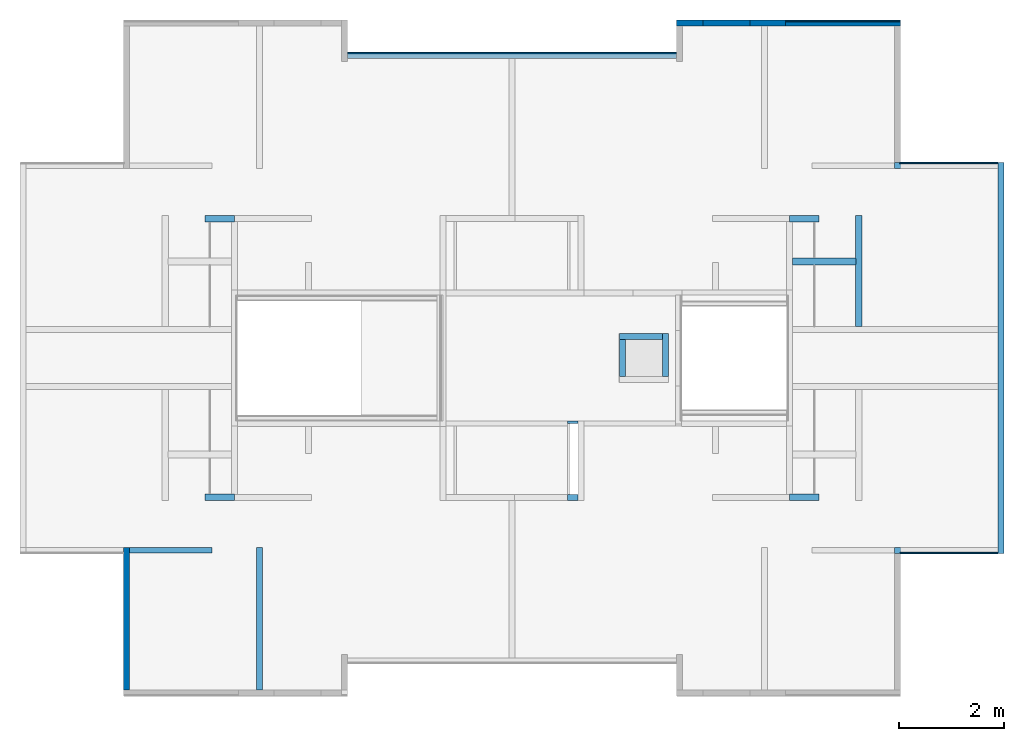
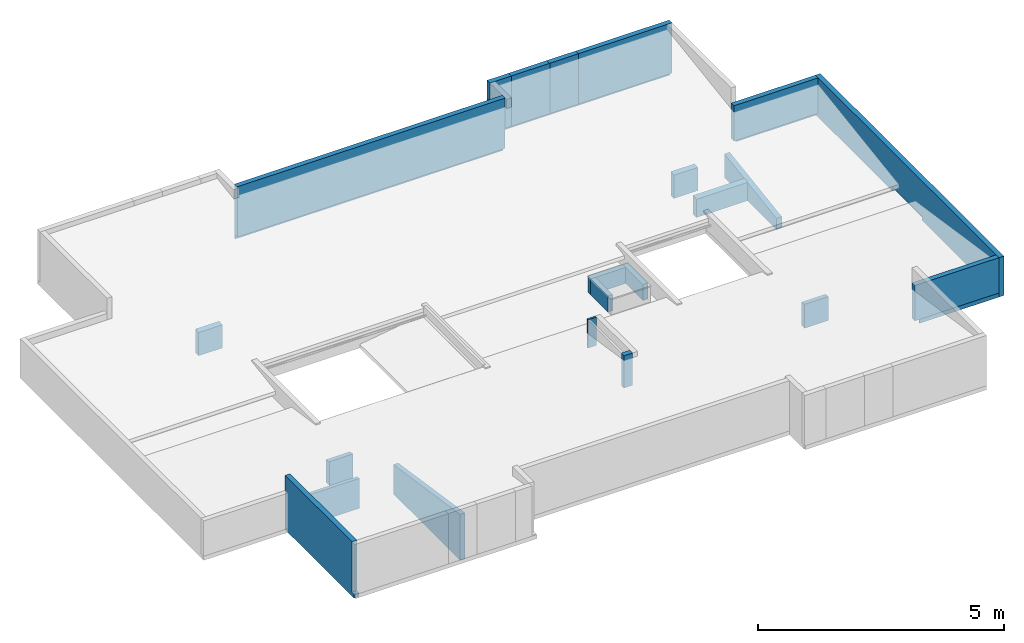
# One storey, part 3 of 9: 26 walls, 2 openings.
"""IFC4 building model written with IfcOpenShell, lengths in metres."""

from ifc_helpers import new_model, entity, si_unit, converted_unit, derived_unit, direction, frame, origin, place, context, subcontext, project, spatial, indexed_curve, outline, extrude, polygons, material, constituent, constituent_set, type_object, element, save


model = new_model("IFC4")

# Units and contexts
model_context = context("Model", 3, precision=1e-05, world=origin(), true_north=direction((6.123031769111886e-17, 1.0)))
body_context = subcontext(model_context, "Body", "Model", "MODEL_VIEW")
ifc_project = project(units=[si_unit("LENGTHUNIT", "METRE"), si_unit("AREAUNIT", "SQUARE_METRE"), si_unit("VOLUMEUNIT", "CUBIC_METRE"), converted_unit("PLANEANGLEUNIT", "DEGREE", entity("IfcRatioMeasure", 0.017453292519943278), si_unit("PLANEANGLEUNIT", "RADIAN"), dimensions=[0, 0, 0, 0, 0, 0, 0]), si_unit("MASSUNIT", "GRAM", prefix="KILO"), derived_unit("MASSDENSITYUNIT", [(si_unit("MASSUNIT", "GRAM", prefix="KILO"), 1), (si_unit("LENGTHUNIT", "METRE"), -3)]), derived_unit("IONCONCENTRATIONUNIT", [(si_unit("MASSUNIT", "GRAM", prefix="KILO"), 1), (si_unit("LENGTHUNIT", "METRE"), -3)]), derived_unit("MOMENTOFINERTIAUNIT", [(si_unit("LENGTHUNIT", "METRE"), 4)]), si_unit("TIMEUNIT", "SECOND"), si_unit("FREQUENCYUNIT", "HERTZ"), si_unit("THERMODYNAMICTEMPERATUREUNIT", "DEGREE_CELSIUS"), derived_unit("THERMALTRANSMITTANCEUNIT", [(si_unit("MASSUNIT", "GRAM", prefix="KILO"), 1), (si_unit("THERMODYNAMICTEMPERATUREUNIT", "KELVIN"), -1), (si_unit("TIMEUNIT", "SECOND"), -3)]), derived_unit("THERMALCONDUCTANCEUNIT", [(si_unit("MASSUNIT", "GRAM", prefix="KILO"), 1), (si_unit("THERMODYNAMICTEMPERATUREUNIT", "KELVIN"), -1), (si_unit("TIMEUNIT", "SECOND"), -3), (si_unit("LENGTHUNIT", "METRE"), 1)]), derived_unit("VOLUMETRICFLOWRATEUNIT", [(si_unit("LENGTHUNIT", "METRE"), 3), (si_unit("TIMEUNIT", "SECOND"), -1)]), derived_unit("MASSFLOWRATEUNIT", [(si_unit("MASSUNIT", "GRAM", prefix="KILO"), 1), (si_unit("TIMEUNIT", "SECOND"), -1)]), derived_unit("ROTATIONALFREQUENCYUNIT", [(si_unit("TIMEUNIT", "SECOND"), -1)]), si_unit("ELECTRICCURRENTUNIT", "AMPERE"), si_unit("ELECTRICVOLTAGEUNIT", "VOLT"), si_unit("POWERUNIT", "WATT"), si_unit("FORCEUNIT", "NEWTON", prefix="KILO"), si_unit("ILLUMINANCEUNIT", "LUX"), si_unit("LUMINOUSFLUXUNIT", "LUMEN"), si_unit("LUMINOUSINTENSITYUNIT", "CANDELA"), derived_unit("USERDEFINED", [(si_unit("MASSUNIT", "GRAM", prefix="KILO"), -1), (si_unit("LENGTHUNIT", "METRE"), -2), (si_unit("TIMEUNIT", "SECOND"), 3), (si_unit("LUMINOUSFLUXUNIT", "LUMEN"), 1)]), derived_unit("USERDEFINED", [(si_unit("MASSUNIT", "GRAM", prefix="KILO"), 1), (si_unit("TIMEUNIT", "SECOND"), -3), (si_unit("LENGTHUNIT", "METRE"), 3), (si_unit("ELECTRICCURRENTUNIT", "AMPERE"), -2)]), derived_unit("SOUNDPOWERUNIT", [(si_unit("MASSUNIT", "GRAM", prefix="KILO"), 1), (si_unit("TIMEUNIT", "SECOND"), -3), (si_unit("LENGTHUNIT", "METRE"), 2)]), derived_unit("SOUNDPRESSUREUNIT", [(si_unit("MASSUNIT", "GRAM", prefix="KILO"), 1), (si_unit("LENGTHUNIT", "METRE"), -1), (si_unit("TIMEUNIT", "SECOND"), -2)]), derived_unit("LINEARVELOCITYUNIT", [(si_unit("LENGTHUNIT", "METRE"), 1), (si_unit("TIMEUNIT", "SECOND"), -1)]), si_unit("PRESSUREUNIT", "PASCAL"), derived_unit("USERDEFINED", [(si_unit("MASSUNIT", "GRAM", prefix="KILO"), 1), (si_unit("LENGTHUNIT", "METRE"), -2), (si_unit("TIMEUNIT", "SECOND"), -2)]), derived_unit("LINEARFORCEUNIT", [(si_unit("MASSUNIT", "GRAM", prefix="KILO"), 1), (si_unit("TIMEUNIT", "SECOND"), -2)]), derived_unit("PLANARFORCEUNIT", [(si_unit("MASSUNIT", "GRAM", prefix="KILO"), 1), (si_unit("LENGTHUNIT", "METRE"), -1), (si_unit("TIMEUNIT", "SECOND"), -2)]), derived_unit("SPECIFICHEATCAPACITYUNIT", [(si_unit("THERMODYNAMICTEMPERATUREUNIT", "KELVIN"), -1), (si_unit("LENGTHUNIT", "METRE"), 2), (si_unit("TIMEUNIT", "SECOND"), -2)]), derived_unit("HEATINGVALUEUNIT", [(si_unit("LENGTHUNIT", "METRE"), 2), (si_unit("TIMEUNIT", "SECOND"), -2)]), derived_unit("VAPORPERMEABILITYUNIT", [(si_unit("LENGTHUNIT", "METRE"), -1), (si_unit("TIMEUNIT", "SECOND"), 1)]), derived_unit("DYNAMICVISCOSITYUNIT", [(si_unit("MASSUNIT", "GRAM", prefix="KILO"), 1), (si_unit("TIMEUNIT", "SECOND"), -1), (si_unit("LENGTHUNIT", "METRE"), -1)]), derived_unit("THERMALEXPANSIONCOEFFICIENTUNIT", [(si_unit("THERMODYNAMICTEMPERATUREUNIT", "KELVIN"), -1)]), derived_unit("MODULUSOFELASTICITYUNIT", [(si_unit("MASSUNIT", "GRAM", prefix="KILO"), 1), (si_unit("LENGTHUNIT", "METRE"), -1), (si_unit("TIMEUNIT", "SECOND"), -2)]), derived_unit("ISOTHERMALMOISTURECAPACITYUNIT", [(si_unit("LENGTHUNIT", "METRE"), 3), (si_unit("MASSUNIT", "GRAM", prefix="KILO"), -1)]), derived_unit("MOISTUREDIFFUSIVITYUNIT", [(si_unit("TIMEUNIT", "SECOND"), -1), (si_unit("LENGTHUNIT", "METRE"), 2)])], contexts=[model_context])

# Site, building, storey
site_placement = place(None, origin())
site = spatial("IfcSite", under=ifc_project, at=site_placement, Name="Default", CompositionType="ELEMENT")
building_placement = place(site_placement, origin())
building = spatial("IfcBuilding", under=site, at=building_placement, CompositionType="ELEMENT")
storey_placement = place(building_placement, frame((0.0, 0.0, 14.10000000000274)))
storey = spatial("IfcBuildingStorey", under=building, at=storey_placement, Name="Nivel 7", CompositionType="ELEMENT", Elevation=14.10000000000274)

# Wall, opening
ifc_material_1 = material(Name="Ladrillo claro (Aire)", Category="Materials")
wall_type_1 = type_object("IfcWallType", Name="Basic Wall:B2010 - 0.115m - Muro exterior en mampostería - Ladrillo", PredefinedType="STANDARD")
wall_1_placement = place(storey_placement, frame((1.9749999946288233, -10.040000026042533, -0.10000000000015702), z_axis=(0.0, 0.0, 1.0), x_axis=(0.0, -1.0, 0.0)))
wall_1 = element("IfcWall", 1, at=wall_1_placement, inside=storey, type_object=wall_type_1, material=ifc_material_1, Name="Basic Wall:B2010 - 0.115m - Muro exterior en mampostería - Ladrillo", ObjectType="Basic Wall:B2010 - 0.115m - Muro exterior en mampostería - Ladrillo", PredefinedType="NOTDEFINED", context=body_context, shape_type="Tessellation", body=[
    polygons([(0.0, -0.05750000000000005, -2.1657342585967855e-15), (0.08500000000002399, -0.057500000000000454, 0.0), (0.11500000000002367, -0.057500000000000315, 0.0), (2.8000000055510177, -0.0575000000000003, -2.1657342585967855e-15), (2.8000000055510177, -0.0575000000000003, 0.0999999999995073), (2.71500000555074, -0.05750000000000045, 0.0999999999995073), (2.71500000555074, -0.05750000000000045, 1.3467999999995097), (0.0, -0.05750000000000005, 1.3467999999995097), (-2.1657342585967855e-15, 0.057499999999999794, -2.1657342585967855e-15), (-2.1657342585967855e-15, 0.057499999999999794, 1.3467999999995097), (2.715000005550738, 0.05749999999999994, 1.3467999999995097), (2.715000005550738, 0.05749999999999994, 0.0999999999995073), (2.8000000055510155, 0.057499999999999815, 0.0999999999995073), (2.8000000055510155, 0.057499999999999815, -2.1657342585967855e-15)], [[[1, 2, 3, 4, 5, 6, 7, 8]], [[9, 10, 11, 12, 13, 14]], [[4, 3, 2, 1, 9, 14]], [[7, 6, 12, 11]], [[8, 7, 11, 10]], [[1, 8, 10, 9]], [[5, 4, 14, 13]], [[6, 5, 13, 12]]], closed=True),
])
opening_1_placement = place(wall_1_placement, origin())
element("IfcOpeningElement", 2, at=opening_1_placement, cuts=wall_1, Name="Basic Wall:B2010 - 0.115m - Muro exterior en mampostería - Ladrillo", PredefinedType="OPENING", context=body_context, shape_type="SweptSolid", body=[
    extrude(outline(indexed_curve([(-0.6234000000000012, -0.04250000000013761), (0.6233999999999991, -0.04250000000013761), (0.6233999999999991, 0.04250000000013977), (-0.6234000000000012, 0.04250000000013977), (-0.6234000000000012, -0.04250000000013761)], self_intersect=False)), frame((2.757500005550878, 0.05749999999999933, 0.7233999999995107), z_axis=(0.0, -1.0, 0.0), x_axis=(0.0, 0.0, 1.0)), (0.0, 0.0, 1.0), 0.115),
])

wall_2_placement = place(storey_placement, frame((18.64500000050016, -10.15500002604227, -0.10000000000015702), z_axis=(0.0, 0.0, 1.0), x_axis=(0.0, 1.0, 0.0)))
wall_2 = element("IfcWall", 3, at=wall_2_placement, inside=storey, type_object=wall_type_1, material=ifc_material_1, Name="Basic Wall:B2010 - 0.115m - Muro exterior en mampostería - Ladrillo", ObjectType="Basic Wall:B2010 - 0.115m - Muro exterior en mampostería - Ladrillo", PredefinedType="NOTDEFINED", context=body_context, shape_type="SweptSolid", body=[
    extrude(outline(indexed_curve([(7.459999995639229, 0.057499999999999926), (8.346495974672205e-17, 0.057499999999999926), (-8.346495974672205e-17, -0.057499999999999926), (7.459999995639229, -0.057499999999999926), (7.459999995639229, 0.057499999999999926)], self_intersect=False)), origin(), (0.0, 0.0, 1.0), 0.9757999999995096),
])
opening_2_placement = place(storey_placement, frame((18.64500000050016, -10.15500002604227, -0.10000000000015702), z_axis=(0.0, 0.0, 1.0), x_axis=(0.0, 1.0, 0.0)))
element("IfcOpeningElement", 4, at=opening_2_placement, cuts=wall_2, Name="Basic Wall:B2010 - 0.115m - Muro exterior en mampostería - Ladrillo:1", PredefinedType="OPENING", context=body_context, shape_type="SweptSolid", body=[
    extrude(outline(indexed_curve([(-0.05000000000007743, -0.02874999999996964), (0.05000000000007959, -0.02874999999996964), (0.05000000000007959, 0.02874999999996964), (-0.05000000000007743, 0.02874999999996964), (-0.05000000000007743, -0.02874999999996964)], self_intersect=False)), frame((3.1299999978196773, 0.02875000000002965, 0.05000000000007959), z_axis=(1.0, 0.0, 0.0), x_axis=(0.0, 0.0, -1.0)), (0.0, 0.0, 1.0), 1.1999999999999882),
])

# Walls
wall_3_placement = place(storey_placement, frame((14.533300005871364, -0.037500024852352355, 0.0), z_axis=(0.0, 0.0, 1.0), x_axis=(-1.0, 0.0, 0.0)))
element("IfcWall", 5, at=wall_3_placement, inside=storey, type_object=wall_type_1, material=ifc_material_1, Name="Basic Wall:B2010 - 0.115m - Muro exterior en mampostería - Ladrillo", ObjectType="Basic Wall:B2010 - 0.115m - Muro exterior en mampostería - Ladrillo", PredefinedType="NOTDEFINED", context=body_context, shape_type="SweptSolid", body=[
    extrude(outline(indexed_curve([(0.670799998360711, 0.05749999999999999), (-5.917886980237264e-16, 0.05749999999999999), (5.917886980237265e-16, -0.0575), (0.670799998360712, -0.0575), (0.670799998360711, 0.05749999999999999)], self_intersect=False)), origin(), (0.0, 0.0, 1.0), 1.2468000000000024),
])
wall_4_placement = place(storey_placement, frame((12.962500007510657, -0.03750002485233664, 0.0), z_axis=(0.0, 0.0, 1.0), x_axis=(-1.0, 0.0, 0.0)))
element("IfcWall", 6, at=wall_4_placement, inside=storey, type_object=wall_type_1, material=ifc_material_1, Name="Basic Wall:B2010 - 0.115m - Muro exterior en mampostería - Ladrillo", ObjectType="Basic Wall:B2010 - 0.115m - Muro exterior en mampostería - Ladrillo", PredefinedType="NOTDEFINED", context=body_context, shape_type="SweptSolid", body=[
    extrude(outline(indexed_curve([(0.5000000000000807, 0.05749999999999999), (-5.563537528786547e-16, 0.05749999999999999), (5.563537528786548e-16, -0.0575), (0.5000000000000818, -0.05749999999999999), (0.5000000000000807, 0.05749999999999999)], self_intersect=False)), origin(), (0.0, 0.0, 1.0), 1.2468000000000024),
])
ifc_material_2 = material(Name="LADRILLO CLARO", Category="Materials")
wall_type_2 = type_object("IfcWallType", Name="Basic Wall:B2010 - 0.115m - ME mampostería no estructural - Ladrillo", PredefinedType="STANDARD")
wall_5_placement = place(storey_placement, frame((18.58750000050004, -2.7525000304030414, 0.0), z_axis=(0.0, 0.0, 1.0), x_axis=(-1.0, 0.0, 0.0)))
element("IfcWall", 7, at=wall_5_placement, inside=storey, type_object=wall_type_2, material=ifc_material_2, Name="Basic Wall:B2010 - 0.115m - ME mampostería no estructural - Ladrillo", ObjectType="Basic Wall:B2010 - 0.115m - ME mampostería no estructural - Ladrillo", PredefinedType="NOTDEFINED", context=body_context, shape_type="SweptSolid", body=[
    extrude(outline(indexed_curve([(1.9749999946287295, 0.05749999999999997), (1.878534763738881e-16, 0.057499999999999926), (-1.878534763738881e-16, -0.057499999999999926), (1.974999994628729, -0.05749999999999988), (1.9749999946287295, 0.05749999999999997)], self_intersect=False)), origin(), (0.0, 0.0, 1.0), 0.8758000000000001),
])
wall_6_placement = place(storey_placement, frame((18.58750000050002, -10.097500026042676, 0.0), z_axis=(0.0, 0.0, 1.0), x_axis=(-1.0, 0.0, 0.0)))
element("IfcWall", 8, at=wall_6_placement, inside=storey, type_object=wall_type_2, material=ifc_material_2, Name="Basic Wall:B2010 - 0.115m - ME mampostería no estructural - Ladrillo", ObjectType="Basic Wall:B2010 - 0.115m - ME mampostería no estructural - Ladrillo", PredefinedType="NOTDEFINED", context=body_context, shape_type="SweptSolid", body=[
    extrude(outline(indexed_curve([(1.974999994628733, 0.05749999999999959), (-5.578745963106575e-16, 0.057499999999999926), (5.578745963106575e-16, -0.057499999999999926), (1.9749999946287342, -0.05750000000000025), (1.974999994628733, 0.05749999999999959)], self_intersect=False)), origin(), (0.0, 0.0, 1.0), 0.8758000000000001),
])
wall_7_placement = place(storey_placement, frame((16.727500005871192, -0.03750002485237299, 0.0), z_axis=(0.0, 0.0, 1.0), x_axis=(-1.0, 0.0, 0.0)))
element("IfcWall", 9, at=wall_7_placement, inside=storey, type_object=wall_type_2, material=ifc_material_2, Name="Basic Wall:B2010 - 0.115m - ME mampostería no estructural - Ladrillo", ObjectType="Basic Wall:B2010 - 0.115m - ME mampostería no estructural - Ladrillo", PredefinedType="NOTDEFINED", context=body_context, shape_type="SweptSolid", body=[
    extrude(outline(indexed_curve([(2.1941999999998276, 0.0575), (-4.823504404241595e-16, 0.0575), (4.823504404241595e-16, -0.0575), (2.194199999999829, -0.05749999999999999), (2.1941999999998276, 0.0575)], self_intersect=False)), origin(), (0.0, 0.0, 1.0), 1.2468000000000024),
])
wall_8_placement = place(storey_placement, frame((13.862500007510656, -0.03750002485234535, 0.0), z_axis=(0.0, 0.0, 1.0), x_axis=(-1.0, 0.0, 0.0)))
element("IfcWall", 10, at=wall_8_placement, inside=storey, type_object=wall_type_2, material=ifc_material_2, Name="Basic Wall:B2010 - 0.115m - ME mampostería no estructural - Ladrillo", ObjectType="Basic Wall:B2010 - 0.115m - ME mampostería no estructural - Ladrillo", PredefinedType="NOTDEFINED", context=body_context, shape_type="SweptSolid", body=[
    extrude(outline(indexed_curve([(0.9000000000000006, 0.05749999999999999), (-5.563537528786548e-16, 0.0575), (5.563537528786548e-16, -0.0575), (0.9000000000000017, -0.0575), (0.9000000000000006, 0.05749999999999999)], self_intersect=False)), origin(), (0.0, 0.0, 1.0), 1.2468000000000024),
])
wall_9_placement = place(storey_placement, frame((6.18249999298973, -0.6525000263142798, 0.0)))
element("IfcWall", 11, at=wall_9_placement, inside=storey, type_object=wall_type_2, material=ifc_material_2, Name="Basic Wall:B2010 - 0.115m - ME mampostería no estructural - Ladrillo", ObjectType="Basic Wall:B2010 - 0.115m - ME mampostería no estructural - Ladrillo", PredefinedType="NOTDEFINED", context=body_context, shape_type="SweptSolid", body=[
    extrude(outline(indexed_curve([(6.280000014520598, 0.05750000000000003), (-1.8502905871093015e-16, 0.05749999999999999), (1.8502905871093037e-16, -0.05750000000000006), (6.280000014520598, -0.057500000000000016), (6.280000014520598, 0.05750000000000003)], self_intersect=False)), origin(), (0.0, 0.0, 1.0), 1.2468000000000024),
])
wall_10_placement = place(storey_placement, frame((12.247500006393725, -6.775000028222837, 0.0), z_axis=(0.0, 0.0, 1.0), x_axis=(0.0, 1.0, 0.0)))
element("IfcWall", 12, at=wall_10_placement, inside=storey, type_object=wall_type_2, material=ifc_material_2, Name="Basic Wall:B2010 - 0.115m - ME mampostería no estructural - Ladrillo", ObjectType="Basic Wall:B2010 - 0.115m - ME mampostería no estructural - Ladrillo", PredefinedType="NOTDEFINED", context=body_context, shape_type="SweptSolid", body=[
    extrude(outline(indexed_curve([(0.8150000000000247, 0.057500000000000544), (-1.9645190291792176e-16, 0.057499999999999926), (1.9645190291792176e-16, -0.057499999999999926), (0.8150000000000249, -0.05749999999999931), (0.8150000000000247, 0.057500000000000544)], self_intersect=False)), origin(), (0.0, 0.0, 1.0), 0.3999999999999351),
])
wall_11_placement = place(storey_placement, frame((11.370000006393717, -6.017500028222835, 0.0)))
element("IfcWall", 13, at=wall_11_placement, inside=storey, type_object=wall_type_2, material=ifc_material_2, Name="Basic Wall:B2010 - 0.115m - ME mampostería no estructural - Ladrillo", ObjectType="Basic Wall:B2010 - 0.115m - ME mampostería no estructural - Ladrillo", PredefinedType="NOTDEFINED", context=body_context, shape_type="SweptSolid", body=[
    extrude(outline(indexed_curve([(0.820000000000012, 0.05750000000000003), (-8.067502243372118e-16, 0.057499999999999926), (8.067502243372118e-16, -0.057499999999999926), (0.8200000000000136, -0.057499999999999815), (0.820000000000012, 0.05750000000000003)], self_intersect=False)), origin(), (0.0, 0.0, 1.0), 0.3999999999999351),
])
wall_12_placement = place(storey_placement, frame((11.427500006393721, -6.775000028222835, 0.0), z_axis=(0.0, 0.0, 1.0), x_axis=(0.0, 1.0, 0.0)))
element("IfcWall", 14, at=wall_12_placement, inside=storey, type_object=wall_type_2, material=ifc_material_2, Name="Basic Wall:B2010 - 0.115m - ME mampostería no estructural - Ladrillo", ObjectType="Basic Wall:B2010 - 0.115m - ME mampostería no estructural - Ladrillo", PredefinedType="NOTDEFINED", context=body_context, shape_type="SweptSolid", body=[
    extrude(outline(indexed_curve([(0.7000000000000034, 0.0574999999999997), (1.9645190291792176e-16, 0.057499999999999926), (-1.9645190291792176e-16, -0.057499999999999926), (0.7000000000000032, -0.057500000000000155), (0.7000000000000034, 0.0574999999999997)], self_intersect=False)), origin(), (0.0, 0.0, 1.0), 0.3999999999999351),
])
wall_type_3 = type_object("IfcWallType", Name="Basic Wall:B2010 - 0.115m - Muro interior en mampostería - Ladrillo", PredefinedType="STANDARD")
wall_13_placement = place(storey_placement, frame((4.509999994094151, -12.755000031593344, -0.10000000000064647), z_axis=(0.0, 0.0, 1.0), x_axis=(0.0, 1.0, 0.0)))
element("IfcWall", 15, at=wall_13_placement, inside=storey, type_object=wall_type_3, material=ifc_material_1, Name="Basic Wall:B2010 - 0.115m - Muro interior en mampostería - Ladrillo", ObjectType="Basic Wall:B2010 - 0.115m - Muro interior en mampostería - Ladrillo", PredefinedType="NOTDEFINED", context=body_context, shape_type="Tessellation", body=[
    polygons([(0.0, -0.05749999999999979, 0.0), (2.7150000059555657, -0.05749999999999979, 0.0), (2.7150000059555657, -0.05749999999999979, 0.7284499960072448), (3.465174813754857e-14, -0.05749999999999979, 1.1356999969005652), (0.0, 0.05750000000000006, 0.0), (0.0, 0.05750000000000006, 1.1356999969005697), (2.7150000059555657, 0.05750000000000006, 0.7284499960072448), (2.7150000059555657, 0.05750000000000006, 0.0)], [[[1, 2, 3, 4]], [[5, 6, 7, 8]], [[2, 1, 5, 8]], [[3, 2, 8, 7]], [[4, 3, 7, 6]], [[1, 4, 6, 5]]], closed=True),
])
ifc_material_3 = material(Name="Concreto (Aire)", Category="Materials")
wall_type_4 = type_object("IfcWallType", Name="Basic Wall:B2010 - 0.10m - Muro interior en concreto", PredefinedType="STANDARD")
wall_14_placement = place(storey_placement, frame((2.0324999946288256, -10.09000003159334, -0.10000000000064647)))
element("IfcWall", 16, at=wall_14_placement, inside=storey, type_object=wall_type_4, material=ifc_material_3, Name="Basic Wall:B2010 - 0.10m - Muro interior en concreto", ObjectType="Basic Wall:B2010 - 0.10m - Muro interior en concreto", PredefinedType="NOTDEFINED", context=body_context, shape_type="Tessellation", body=[
    polygons([(1.205248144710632e-13, -0.050000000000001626, 0.0), (1.5699999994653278, -0.050000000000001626, 0.0), (1.5699999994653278, -0.050000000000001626, 0.7434499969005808), (4.0121930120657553e-14, -0.050000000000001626, 0.743449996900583), (1.2074265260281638e-13, 0.04999999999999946, 0.0), (1.2074265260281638e-13, 0.04999999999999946, 0.7284499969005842), (1.5699999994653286, 0.04999999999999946, 0.7284499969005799), (1.569999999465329, 0.04999999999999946, 0.0)], [[[1, 2, 3, 4]], [[5, 6, 7, 8]], [[2, 1, 5, 8]], [[3, 2, 8, 7]], [[1, 4, 6, 5]], [[4, 3, 7, 6]]], closed=True),
])
ifc_material_4 = material(Name="Pañete", Category="Materials")
ifc_constituent_1 = constituent(ifc_material_4, Name="Pañete", Category="Materials")
ifc_constituent_2 = constituent(ifc_material_1, Name="Ladrillo claro (Aire)", Category="Materials")
ifc_constituent_set_1 = constituent_set(constituents=[ifc_constituent_1, ifc_constituent_2], Name="Basic Wall:B2010 - 0.115m - Muro interior en mampostería - Ladrillo + Pañete")
wall_type_5 = type_object("IfcWallType", Name="Basic Wall:B2010 - 0.115m - Muro interior en mampostería - Ladrillo + Pañete", PredefinedType="STANDARD", material=ifc_constituent_set_1)
wall_15_placement = place(storey_placement, frame((3.4724999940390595, -3.7725000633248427, -0.10000000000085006)))
element("IfcWall", 17, at=wall_15_placement, inside=storey, type_object=wall_type_5, material=ifc_constituent_set_1, Name="Basic Wall:B2010 - 0.115m - Muro interior en mampostería - Ladrillo + Pañete", ObjectType="Basic Wall:B2010 - 0.115m - Muro interior en mampostería - Ladrillo + Pañete", PredefinedType="NOTDEFINED", context=body_context, shape_type="SweptSolid", body=[
    extrude(outline(indexed_curve([(-0.004999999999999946, -0.287724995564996), (0.004999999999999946, -0.287724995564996), (0.004999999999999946, 0.2884749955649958), (-0.004999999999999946, 0.2869749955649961), (-0.004999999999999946, -0.287724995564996)], self_intersect=False)), frame((0.0, -0.057499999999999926, 0.28772499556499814), z_axis=(1.0, 0.0, 0.0), x_axis=(0.0, 1.0, 0.0)), (0.0, 0.0, 1.0), 0.5575000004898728),
    extrude(outline(indexed_curve([(-0.1015198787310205, -0.2891773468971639), (0.01476667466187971, -0.28917734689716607), (0.10024044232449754, 0.28064777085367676), (-0.013487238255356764, 0.2977069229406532), (-0.1015198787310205, -0.2891773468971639)], self_intersect=False)), frame((0.0, 0.004999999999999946, 0.29241249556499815), z_axis=(1.0, 0.0, 0.0), x_axis=(0.0, -0.9889363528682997, -0.14834045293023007)), (0.0, 0.0, 1.0), 0.5575000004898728),
])
wall_16_placement = place(storey_placement, frame((15.929998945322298, -3.70999993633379, -0.10000000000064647), z_axis=(0.0, 0.0, 1.0), x_axis=(0.0, -1.0, 0.0)))
element("IfcWall", 18, at=wall_16_placement, inside=storey, type_object=wall_type_5, material=ifc_constituent_set_1, Name="Basic Wall:B2010 - 0.115m - Muro interior en mampostería - Ladrillo + Pañete", ObjectType="Basic Wall:B2010 - 0.115m - Muro interior en mampostería - Ladrillo + Pañete", PredefinedType="NOTDEFINED", context=body_context, shape_type="SweptSolid", body=[
    extrude(outline(indexed_curve([(-0.20645454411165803, -0.8940909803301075), (-0.10645454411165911, -0.8940909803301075), (0.06974545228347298, -0.8940909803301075), (0.3869954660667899, -0.8940909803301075), (0.2662454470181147, -0.08909085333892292), (0.24599544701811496, 0.04590914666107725), (0.06974545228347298, 1.2209091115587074), (-0.10645454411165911, 1.2209091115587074), (-0.20645454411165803, 1.2209091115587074), (-0.20645454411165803, 0.04590914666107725), (-0.20645454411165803, -0.08909085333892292), (-0.20645454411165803, -0.8940909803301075)], self_intersect=False)), frame((0.8940909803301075, -0.06249999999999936, 0.20645454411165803), z_axis=(0.0, 1.0, 0.0), x_axis=(0.0, 0.0, 1.0)), (0.0, 0.0, 1.0), 0.009999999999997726),
    extrude(outline(indexed_curve([(-0.1922642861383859, -0.9064286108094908), (-0.09226428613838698, -0.9064286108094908), (0.08393571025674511, -0.9064286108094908), (0.40118572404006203, -0.9064286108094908), (0.08393571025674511, 1.208571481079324), (-0.09226428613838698, 1.208571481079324), (-0.1922642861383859, 1.208571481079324), (-0.1922642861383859, -0.9064286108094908)], self_intersect=False)), frame((0.9064286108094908, -0.05250000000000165, 0.1922642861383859), z_axis=(0.0, 1.0, 0.0), x_axis=(0.0, 0.0, 1.0)), (0.0, 0.0, 1.0), 0.11500000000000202),
])
wall_17_placement = place(storey_placement, frame((15.172500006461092, -3.7725000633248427, -0.10000000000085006), z_axis=(0.0, 0.0, 1.0), x_axis=(-1.0, 0.0, 0.0)))
element("IfcWall", 19, at=wall_17_placement, inside=storey, type_object=wall_type_5, material=ifc_constituent_set_1, Name="Basic Wall:B2010 - 0.115m - Muro interior en mampostería - Ladrillo + Pañete", ObjectType="Basic Wall:B2010 - 0.115m - Muro interior en mampostería - Ladrillo + Pañete", PredefinedType="NOTDEFINED", context=body_context, shape_type="SweptSolid", body=[
    extrude(outline(indexed_curve([(-0.005000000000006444, -0.287724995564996), (0.004999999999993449, -0.287724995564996), (0.005000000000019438, 0.28847499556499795), (-0.005000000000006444, 0.28697499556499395), (-0.005000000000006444, -0.287724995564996)], self_intersect=False)), frame((0.5575000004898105, 0.057499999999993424, 0.28772499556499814), z_axis=(-1.0, 0.0, 0.0), x_axis=(0.0, -1.0, 0.0)), (0.0, 0.0, 1.0), 0.55750000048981),
    extrude(outline(indexed_curve([(-0.10151987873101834, -0.2891773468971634), (0.014766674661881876, -0.28917734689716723), (0.10024044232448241, 0.2806477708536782), (-0.013487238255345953, 0.29770692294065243), (-0.10151987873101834, -0.2891773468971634)], self_intersect=False)), frame((0.5575000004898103, -0.005000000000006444, 0.29241249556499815), z_axis=(-1.0, 0.0, 0.0), x_axis=(0.0, 0.9889363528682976, -0.14834045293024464)), (0.0, 0.0, 1.0), 0.5575000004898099),
])
wall_18_placement = place(storey_placement, frame((3.4724999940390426, -9.077499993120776, -0.10000000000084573)))
element("IfcWall", 20, at=wall_18_placement, inside=storey, type_object=wall_type_5, material=ifc_constituent_set_1, Name="Basic Wall:B2010 - 0.115m - Muro interior en mampostería - Ladrillo + Pañete", ObjectType="Basic Wall:B2010 - 0.115m - Muro interior en mampostería - Ladrillo + Pañete", PredefinedType="NOTDEFINED", context=body_context, shape_type="SweptSolid", body=[
    extrude(outline(indexed_curve([(0.03762531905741, -0.28454170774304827), (0.047737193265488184, -0.28454170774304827), (-0.037736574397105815, 0.2852834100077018), (-0.04762593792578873, 0.2838000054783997), (0.03762531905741, -0.28454170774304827)], self_intersect=False)), frame((0.0, 0.05750000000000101, 0.2877249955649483), z_axis=(1.0, 0.0, 0.0), x_axis=(0.0, -0.9889363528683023, 0.14834045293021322)), (0.0, 0.0, 1.0), 0.5575000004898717),
    extrude(outline(indexed_curve([(-0.057499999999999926, -0.2924124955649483), (0.057499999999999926, -0.2924124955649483), (0.057499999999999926, 0.2837874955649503), (-0.057499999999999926, 0.3010374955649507), (-0.057499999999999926, -0.2924124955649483)], self_intersect=False)), frame((0.0, -0.004999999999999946, 0.29241249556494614), z_axis=(1.0, 0.0, 0.0), x_axis=(0.0, 1.0, 0.0)), (0.0, 0.0, 1.0), 0.5575000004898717),
])
wall_19_placement = place(storey_placement, frame((15.172500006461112, -9.077499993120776, -0.10000000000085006), z_axis=(0.0, 0.0, 1.0), x_axis=(-1.0, 0.0, 0.0)))
element("IfcWall", 21, at=wall_19_placement, inside=storey, type_object=wall_type_5, material=ifc_constituent_set_1, Name="Basic Wall:B2010 - 0.115m - Muro interior en mampostería - Ladrillo + Pañete", ObjectType="Basic Wall:B2010 - 0.115m - Muro interior en mampostería - Ladrillo + Pañete", PredefinedType="NOTDEFINED", context=body_context, shape_type="SweptSolid", body=[
    extrude(outline(indexed_curve([(0.03762531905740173, -0.28454170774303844), (0.047737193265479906, -0.2845417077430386), (-0.037736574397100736, 0.2852834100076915), (-0.047625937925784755, 0.2838000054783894), (0.03762531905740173, -0.28454170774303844)], self_intersect=False)), frame((0.55750000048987, -0.057499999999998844, 0.2877249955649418), z_axis=(-1.0, 0.0, 0.0), x_axis=(0.0, 0.9889363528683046, 0.1483404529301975)), (0.0, 0.0, 1.0), 0.5575000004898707),
    extrude(outline(indexed_curve([(-0.057499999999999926, -0.2924124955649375), (0.057499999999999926, -0.2924124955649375), (0.057499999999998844, 0.2837874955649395), (-0.057499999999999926, 0.30103749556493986), (-0.057499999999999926, -0.2924124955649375)], self_intersect=False)), frame((0.5575000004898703, 0.004999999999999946, 0.29241249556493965), z_axis=(-1.0, 0.0, 0.0), x_axis=(0.0, -1.0, 0.0)), (0.0, 0.0, 1.0), 0.5575000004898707),
])
ifc_constituent_3 = constituent(ifc_material_4, Name="Pañete", Category="Materials")
ifc_constituent_4 = constituent(ifc_material_2, Name="LADRILLO CLARO", Category="Materials")
ifc_constituent_5 = constituent(ifc_material_4, Name="Pañete (2)", Category="Materials")
ifc_constituent_set_2 = constituent_set(constituents=[ifc_constituent_3, ifc_constituent_4, ifc_constituent_5], Name="Basic Wall:B2010 - 0.115m - MI  mampostería no estructural - Pañete + Ladrillo + Pañete")
wall_type_6 = type_object("IfcWallType", Name="Basic Wall:B2010 - 0.115m - MI  mampostería no estructural - Pañete + Ladrillo + Pañete", PredefinedType="STANDARD", material=ifc_constituent_set_2)
wall_20_placement = place(storey_placement, frame((14.672500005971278, -4.582500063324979, -0.10000000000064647)))
element("IfcWall", 22, at=wall_20_placement, inside=storey, type_object=wall_type_6, material=ifc_constituent_set_2, Name="Basic Wall:B2010 - 0.115m - MI  mampostería no estructural - Pañete + Ladrillo + Pañete", ObjectType="Basic Wall:B2010 - 0.115m - MI  mampostería no estructural - Pañete + Ladrillo + Pañete", PredefinedType="NOTDEFINED", context=body_context, shape_type="SweptSolid", body=[
    extrude(outline(indexed_curve([(-0.04006057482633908, -0.23336425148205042), (-0.0299487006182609, -0.23336425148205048), (0.039949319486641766, 0.23262254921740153), (0.030059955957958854, 0.23410595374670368), (-0.04006057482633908, -0.23336425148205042)], self_intersect=False)), frame((0.0, 0.06249999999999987, 0.23597499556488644), z_axis=(1.0, 0.0, 0.0), x_axis=(0.0, -0.9889363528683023, -0.14834045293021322)), (0.0, 0.0, 1.0), 1.1949989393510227),
    extrude(outline(indexed_curve([(-0.0050000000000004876, -0.22659999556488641), (0.004999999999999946, -0.22659999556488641), (0.004999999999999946, 0.22734999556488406), (-0.0050000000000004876, 0.22584999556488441), (-0.0050000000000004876, -0.22659999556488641)], self_intersect=False)), frame((0.0, -0.06249999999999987, 0.22659999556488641), z_axis=(1.0, 0.0, 0.0), x_axis=(0.0, 1.0, 0.0)), (0.0, 0.0, 1.0), 1.1949989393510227),
    extrude(outline(indexed_curve([(-0.23128749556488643, -0.057499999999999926), (0.23991249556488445, -0.057499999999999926), (0.22266249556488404, 0.057499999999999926), (-0.23128749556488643, 0.057499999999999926), (-0.23128749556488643, -0.057499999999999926)], self_intersect=False)), frame((0.0, 0.0, 0.23128749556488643), z_axis=(1.0, 0.0, 0.0), x_axis=(0.0, 0.0, 1.0)), (0.0, 0.0, 1.0), 1.2049989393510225),
])
wall_type_7 = type_object("IfcWallType", Name="Basic Wall:B2010 - 0.115m - MI mampostería no estructural - Ladrillo", PredefinedType="STANDARD")
wall_21_placement = place(storey_placement, frame((10.582499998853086, -9.082499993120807, -0.10000000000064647), z_axis=(0.0, 0.0, 1.0), x_axis=(-1.0, 0.0, 0.0)))
element("IfcWall", 23, at=wall_21_placement, inside=storey, type_object=wall_type_7, material=ifc_material_2, Name="Basic Wall:B2010 - 0.115m - MI mampostería no estructural - Ladrillo", ObjectType="Basic Wall:B2010 - 0.115m - MI mampostería no estructural - Ladrillo", PredefinedType="NOTDEFINED", context=body_context, shape_type="SweptSolid", body=[
    extrude(outline(indexed_curve([(0.19999999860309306, 0.05749999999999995), (3.0373102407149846e-16, 0.057499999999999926), (-3.0373102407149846e-16, -0.057499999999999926), (0.19999999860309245, -0.0574999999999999), (0.19999999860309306, 0.05749999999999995)], self_intersect=False)), origin(), (0.0, 0.0, 1.0), 0.8),
])
ifc_material_5 = material(Name="0 muro divisorio", Category="Materials")
wall_type_8 = type_object("IfcWallType", Name="Basic Wall:B2010 - 0.05m - MI No estructural- Concreto", PredefinedType="STANDARD")
wall_22_placement = place(storey_placement, frame((10.38249999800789, -7.650000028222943, 0.0)))
element("IfcWall", 24, at=wall_22_placement, inside=storey, type_object=wall_type_8, material=ifc_material_5, Name="Basic Wall:B2010 - 0.05m - MI No estructural- Concreto", ObjectType="Basic Wall:B2010 - 0.05m - MI No estructural- Concreto", PredefinedType="NOTDEFINED", context=body_context, shape_type="SweptSolid", body=[
    extrude(outline(indexed_curve([(0.19999999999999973, 0.024999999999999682), (-2.641139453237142e-16, 0.02499999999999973), (2.641139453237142e-16, -0.02499999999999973), (0.2000000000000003, -0.024999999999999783), (0.19999999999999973, 0.024999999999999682)], self_intersect=False)), origin(), (0.0, 0.0, 1.0), 0.7000000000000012),
])
wall_type_9 = type_object("IfcWallType", Name="Basic Wall:B2010 - 0.03m - ME enchape  no estructural - Ladrillo", PredefinedType="STANDARD")
wall_23_placement = place(storey_placement, frame((16.727500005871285, -10.140000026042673, -0.10000000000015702)))
element("IfcWall", 25, at=wall_23_placement, inside=storey, type_object=wall_type_9, material=ifc_material_2, Name="Basic Wall:B2010 - 0.03m - ME enchape  no estructural - Ladrillo", ObjectType="Basic Wall:B2010 - 0.03m - ME enchape  no estructural - Ladrillo", PredefinedType="NOTDEFINED", context=body_context, shape_type="SweptSolid", body=[
    extrude(outline(indexed_curve([(1.8599999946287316, 0.015000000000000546), (-4.936035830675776e-17, 0.015000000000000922), (4.936035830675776e-17, -0.015000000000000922), (1.8599999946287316, -0.015000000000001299), (1.8599999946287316, 0.015000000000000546)], self_intersect=False)), origin(), (0.0, 0.0, 1.0), 0.09999999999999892),
])
wall_24_placement = place(storey_placement, frame((18.58750000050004, -2.7102363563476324, -0.10000000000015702), z_axis=(0.0, 0.0, 1.0), x_axis=(-1.0, 0.0, 0.0)))
element("IfcWall", 26, at=wall_24_placement, inside=storey, type_object=wall_type_9, material=ifc_material_2, Name="Basic Wall:B2010 - 0.03m - ME enchape  no estructural - Ladrillo", ObjectType="Basic Wall:B2010 - 0.03m - ME enchape  no estructural - Ladrillo", PredefinedType="NOTDEFINED", context=body_context, shape_type="SweptSolid", body=[
    extrude(outline(indexed_curve([(1.8749999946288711, 0.014999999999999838), (-4.7646153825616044e-17, 0.014999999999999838), (4.7646153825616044e-17, -0.014999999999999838), (1.8749999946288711, -0.014999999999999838), (1.8749999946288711, 0.014999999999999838)], self_intersect=False)), origin(), (0.0, 0.0, 1.0), 0.09999999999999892),
])
wall_25_placement = place(storey_placement, frame((16.727500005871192, 0.004999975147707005, -0.10000000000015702), z_axis=(0.0, 0.0, 1.0), x_axis=(-1.0, 0.0, 0.0)))
element("IfcWall", 27, at=wall_25_placement, inside=storey, type_object=wall_type_9, material=ifc_material_2, Name="Basic Wall:B2010 - 0.03m - ME enchape  no estructural - Ladrillo", ObjectType="Basic Wall:B2010 - 0.03m - ME enchape  no estructural - Ladrillo", PredefinedType="NOTDEFINED", context=body_context, shape_type="SweptSolid", body=[
    extrude(outline(indexed_curve([(4.264999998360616, 0.015), (-4.846838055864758e-17, 0.015), (4.846838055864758e-17, -0.015), (4.264999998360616, -0.015), (4.264999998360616, 0.015)], self_intersect=False)), origin(), (0.0, 0.0, 1.0), 0.09999999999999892),
])
wall_26_placement = place(storey_placement, frame((12.462500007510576, -0.6100000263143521, -0.10000000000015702), z_axis=(0.0, 0.0, 1.0), x_axis=(-1.0, 0.0, 0.0)))
element("IfcWall", 28, at=wall_26_placement, inside=storey, type_object=wall_type_9, material=ifc_material_2, Name="Basic Wall:B2010 - 0.03m - ME enchape  no estructural - Ladrillo", ObjectType="Basic Wall:B2010 - 0.03m - ME enchape  no estructural - Ladrillo", PredefinedType="NOTDEFINED", context=body_context, shape_type="SweptSolid", body=[
    extrude(outline(indexed_curve([(6.280000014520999, 0.014999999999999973), (-4.849623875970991e-17, 0.014999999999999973), (4.849623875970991e-17, -0.014999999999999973), (6.280000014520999, -0.014999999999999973), (6.280000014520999, 0.014999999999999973)], self_intersect=False)), origin(), (0.0, 0.0, 1.0), 0.09999999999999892),
])

save(model, "model.ifc")
